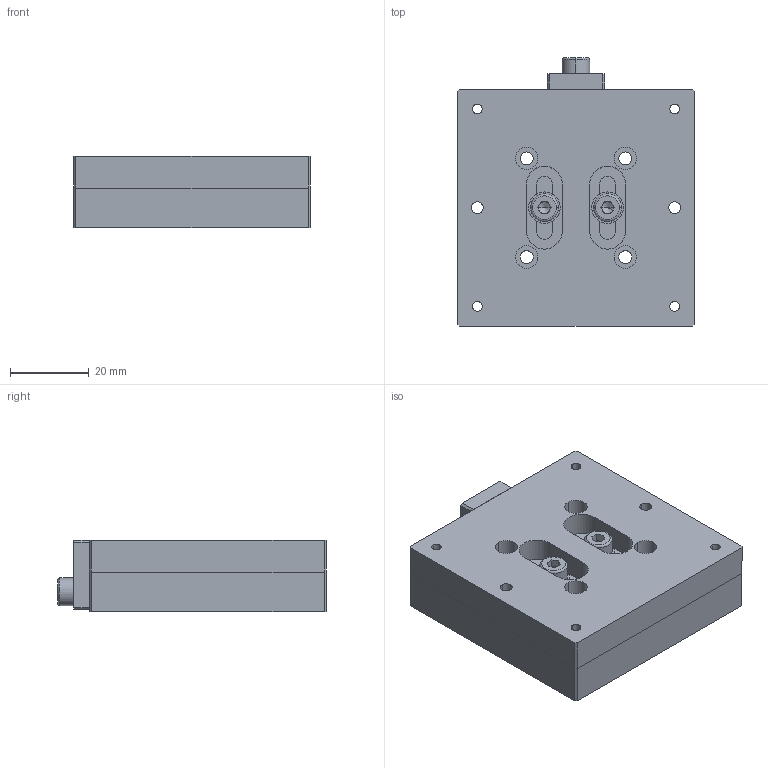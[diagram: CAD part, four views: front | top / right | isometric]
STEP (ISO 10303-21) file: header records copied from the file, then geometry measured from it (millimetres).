
FILE_DESCRIPTION (( 'STEP AP203' ), '1' );
FILE_NAME ('BEMA60.STEP', '2024-03-04T01:08:34', ( 'China' ), ( 'Microsoft' ), 'SwSTEP 2.0', 'SolidWorks 2024', '' );
FILE_SCHEMA (( 'CONFIG_CONTROL_DESIGN' ));
Length unit declared in the file: millimetre
Products named in the file (1): BEMA60
Bounding box: 60 x 68 x 18 mm (x, y, z)
Volume: 60600 mm3; surface area: 23756.7 mm2
Topology: 11 solids, 11 shells, 295 faces, 716 edges, 448 vertices
Faces by surface type: plane 141, cylinder 110, cone 34, torus 10
Entity records: 8789 total; most frequent: DIRECTION 1578, CARTESIAN_POINT 1536, ORIENTED_EDGE 1400, EDGE_CURVE 700, AXIS2_PLACEMENT_3D 594, VERTEX_POINT 448, LINE 390, VECTOR 390
